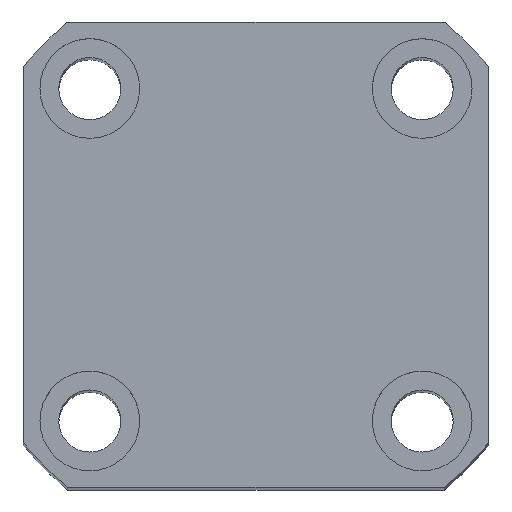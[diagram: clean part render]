
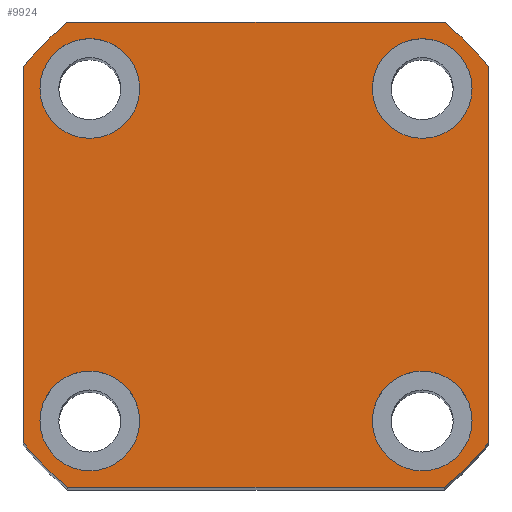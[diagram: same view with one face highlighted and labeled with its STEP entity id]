
A CAD part, top view. The second image highlights one B-rep face of the part: STEP entity #9924.
In plain terms, the highlighted planar face has unit normal (0, 0, 1).
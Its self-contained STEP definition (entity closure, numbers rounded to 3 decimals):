
#84 = CIRCLE ( 'NONE', #10214, 4.5 ) ;
#116 = EDGE_CURVE ( 'NONE', #1293, #1681, #10121, .T. ) ;
#162 = VERTEX_POINT ( 'NONE', #4908 ) ;
#220 = DIRECTION ( 'NONE',  ( 1., 0., 0. ) ) ;
#311 = AXIS2_PLACEMENT_3D ( 'NONE', #9185, #4201, #9992 ) ;
#366 = DIRECTION ( 'NONE',  ( 0., 0., 1. ) ) ;
#473 = VERTEX_POINT ( 'NONE', #594 ) ;
#479 = EDGE_CURVE ( 'NONE', #6221, #162, #4153, .T. ) ;
#530 = ORIENTED_EDGE ( 'NONE', *, *, #9271, .T. ) ;
#569 = CARTESIAN_POINT ( 'NONE',  ( 15., 15., 133. ) ) ;
#594 = CARTESIAN_POINT ( 'NONE',  ( -19.5, 15.002, 133. ) ) ;
#651 = FACE_BOUND ( 'NONE', #5112, .T. ) ;
#656 = AXIS2_PLACEMENT_3D ( 'NONE', #7766, #2812, #8602 ) ;
#668 = DIRECTION ( 'NONE',  ( 1., 0., 0. ) ) ;
#737 = CARTESIAN_POINT ( 'NONE',  ( -16.971, 21., 133. ) ) ;
#748 = CARTESIAN_POINT ( 'NONE',  ( 0., 0., 133. ) ) ;
#811 = DIRECTION ( 'NONE',  ( 0., 0., 1. ) ) ;
#836 = DIRECTION ( 'NONE',  ( 1., 0., 0. ) ) ;
#952 = CIRCLE ( 'NONE', #7376, 4.5 ) ;
#990 = VERTEX_POINT ( 'NONE', #2582 ) ;
#994 = CARTESIAN_POINT ( 'NONE',  ( -21., 21., 133. ) ) ;
#1282 = VECTOR ( 'NONE', #7005, 1000. ) ;
#1293 = VERTEX_POINT ( 'NONE', #5884 ) ;
#1294 = CARTESIAN_POINT ( 'NONE',  ( 0., 0., 133. ) ) ;
#1351 = DIRECTION ( 'NONE',  ( 1., 0., 0. ) ) ;
#1399 = CIRCLE ( 'NONE', #4107, 4.5 ) ;
#1491 = AXIS2_PLACEMENT_3D ( 'NONE', #569, #6329, #1351 ) ;
#1515 = CIRCLE ( 'NONE', #8488, 27. ) ;
#1681 = VERTEX_POINT ( 'NONE', #6994 ) ;
#1909 = DIRECTION ( 'NONE',  ( 0., 0., 1. ) ) ;
#2082 = AXIS2_PLACEMENT_3D ( 'NONE', #748, #811, #836 ) ;
#2111 = DIRECTION ( 'NONE',  ( 1., 0., 0. ) ) ;
#2185 = ORIENTED_EDGE ( 'NONE', *, *, #6860, .F. ) ;
#2440 = ORIENTED_EDGE ( 'NONE', *, *, #3163, .F. ) ;
#2582 = CARTESIAN_POINT ( 'NONE',  ( -16.971, -21., 133. ) ) ;
#2619 = DIRECTION ( 'NONE',  ( 0., 0., 1. ) ) ;
#2718 = CARTESIAN_POINT ( 'NONE',  ( 15., -14.998, 133. ) ) ;
#2765 = EDGE_CURVE ( 'NONE', #473, #4996, #5985, .T. ) ;
#2802 = CARTESIAN_POINT ( 'NONE',  ( 21., 16.971, 133. ) ) ;
#2812 = DIRECTION ( 'NONE',  ( 0., 0., 1. ) ) ;
#2921 = CARTESIAN_POINT ( 'NONE',  ( 19.5, -14.998, 133. ) ) ;
#3037 = LINE ( 'NONE', #994, #5243 ) ;
#3054 = CARTESIAN_POINT ( 'NONE',  ( -15., 15.002, 133. ) ) ;
#3163 = EDGE_CURVE ( 'NONE', #8508, #4341, #84, .T. ) ;
#3444 = VERTEX_POINT ( 'NONE', #9768 ) ;
#3517 = CARTESIAN_POINT ( 'NONE',  ( 15., 15., 133. ) ) ;
#3535 = DIRECTION ( 'NONE',  ( 1., 0., 0. ) ) ;
#3556 = VERTEX_POINT ( 'NONE', #9906 ) ;
#3723 = ORIENTED_EDGE ( 'NONE', *, *, #6023, .F. ) ;
#3844 = EDGE_CURVE ( 'NONE', #990, #6221, #9636, .T. ) ;
#3880 = DIRECTION ( 'NONE',  ( 1., 0., 0. ) ) ;
#3969 = EDGE_LOOP ( 'NONE', ( #530, #4053, #10563, #6664, #9460, #7098, #4853, #7843 ) ) ;
#4053 = ORIENTED_EDGE ( 'NONE', *, *, #9418, .T. ) ;
#4107 = AXIS2_PLACEMENT_3D ( 'NONE', #7582, #2619, #8410 ) ;
#4116 = VERTEX_POINT ( 'NONE', #6443 ) ;
#4153 = CIRCLE ( 'NONE', #2082, 27. ) ;
#4201 = DIRECTION ( 'NONE',  ( 0., 0., 1. ) ) ;
#4256 = CARTESIAN_POINT ( 'NONE',  ( -15., -14.998, 133. ) ) ;
#4280 = CIRCLE ( 'NONE', #1491, 4.5 ) ;
#4286 = DIRECTION ( 'NONE',  ( 0., 0., 1. ) ) ;
#4330 = DIRECTION ( 'NONE',  ( 1., 0., 0. ) ) ;
#4341 = VERTEX_POINT ( 'NONE', #7497 ) ;
#4345 = DIRECTION ( 'NONE',  ( 1., 0., 0. ) ) ;
#4468 = AXIS2_PLACEMENT_3D ( 'NONE', #4256, #4286, #4330 ) ;
#4648 = EDGE_LOOP ( 'NONE', ( #10335, #9304 ) ) ;
#4739 = VERTEX_POINT ( 'NONE', #7175 ) ;
#4853 = ORIENTED_EDGE ( 'NONE', *, *, #3844, .T. ) ;
#4908 = CARTESIAN_POINT ( 'NONE',  ( 21., -16.971, 133. ) ) ;
#4996 = VERTEX_POINT ( 'NONE', #5199 ) ;
#5102 = DIRECTION ( 'NONE',  ( 0., 0., 1. ) ) ;
#5112 = EDGE_LOOP ( 'NONE', ( #2440, #7584 ) ) ;
#5199 = CARTESIAN_POINT ( 'NONE',  ( -10.5, 15.002, 133. ) ) ;
#5233 = VECTOR ( 'NONE', #668, 1000. ) ;
#5243 = VECTOR ( 'NONE', #5945, 1000. ) ;
#5255 = CARTESIAN_POINT ( 'NONE',  ( 15., -14.998, 133. ) ) ;
#5279 = PLANE ( 'NONE',  #656 ) ;
#5531 = FACE_BOUND ( 'NONE', #4648, .T. ) ;
#5586 = EDGE_CURVE ( 'NONE', #4116, #3556, #4280, .T. ) ;
#5884 = CARTESIAN_POINT ( 'NONE',  ( -10.5, -14.998, 133. ) ) ;
#5904 = CARTESIAN_POINT ( 'NONE',  ( 21., 21., 133. ) ) ;
#5945 = DIRECTION ( 'NONE',  ( -1., 0., 0. ) ) ;
#5985 = CIRCLE ( 'NONE', #8202, 4.5 ) ;
#6023 = EDGE_CURVE ( 'NONE', #4996, #473, #952, .T. ) ;
#6113 = DIRECTION ( 'NONE',  ( 1., 0., 0. ) ) ;
#6196 = CARTESIAN_POINT ( 'NONE',  ( -21., 21., 133. ) ) ;
#6221 = VERTEX_POINT ( 'NONE', #9457 ) ;
#6329 = DIRECTION ( 'NONE',  ( 0., 0., 1. ) ) ;
#6443 = CARTESIAN_POINT ( 'NONE',  ( 10.5, 15., 133. ) ) ;
#6664 = ORIENTED_EDGE ( 'NONE', *, *, #8794, .T. ) ;
#6836 = VERTEX_POINT ( 'NONE', #8506 ) ;
#6860 = EDGE_CURVE ( 'NONE', #3556, #4116, #9548, .T. ) ;
#6864 = CARTESIAN_POINT ( 'NONE',  ( -15., 15.002, 133. ) ) ;
#6957 = FACE_OUTER_BOUND ( 'NONE', #3969, .T. ) ;
#6994 = CARTESIAN_POINT ( 'NONE',  ( -19.5, -14.998, 133. ) ) ;
#7005 = DIRECTION ( 'NONE',  ( 0., -1., 0. ) ) ;
#7071 = DIRECTION ( 'NONE',  ( 0., 0., 1. ) ) ;
#7098 = ORIENTED_EDGE ( 'NONE', *, *, #8023, .T. ) ;
#7175 = CARTESIAN_POINT ( 'NONE',  ( -21., 16.971, 133. ) ) ;
#7376 = AXIS2_PLACEMENT_3D ( 'NONE', #6864, #1909, #7683 ) ;
#7445 = VECTOR ( 'NONE', #9217, 1000. ) ;
#7463 = FACE_BOUND ( 'NONE', #9417, .T. ) ;
#7497 = CARTESIAN_POINT ( 'NONE',  ( 10.5, -14.998, 133. ) ) ;
#7554 = EDGE_CURVE ( 'NONE', #4341, #8508, #9410, .T. ) ;
#7582 = CARTESIAN_POINT ( 'NONE',  ( -15., -14.998, 133. ) ) ;
#7584 = ORIENTED_EDGE ( 'NONE', *, *, #7554, .F. ) ;
#7683 = DIRECTION ( 'NONE',  ( 1., 0., 0. ) ) ;
#7696 = EDGE_CURVE ( 'NONE', #4739, #3444, #7850, .T. ) ;
#7766 = CARTESIAN_POINT ( 'NONE',  ( 0., 0., 133. ) ) ;
#7843 = ORIENTED_EDGE ( 'NONE', *, *, #479, .T. ) ;
#7850 = LINE ( 'NONE', #6196, #1282 ) ;
#8023 = EDGE_CURVE ( 'NONE', #3444, #990, #8499, .T. ) ;
#8028 = CARTESIAN_POINT ( 'NONE',  ( -21., -21., 133. ) ) ;
#8202 = AXIS2_PLACEMENT_3D ( 'NONE', #3054, #8853, #3880 ) ;
#8211 = AXIS2_PLACEMENT_3D ( 'NONE', #1294, #7071, #2111 ) ;
#8410 = DIRECTION ( 'NONE',  ( 1., 0., 0. ) ) ;
#8488 = AXIS2_PLACEMENT_3D ( 'NONE', #10054, #5102, #220 ) ;
#8499 = CIRCLE ( 'NONE', #311, 27. ) ;
#8506 = CARTESIAN_POINT ( 'NONE',  ( 16.971, 21., 133. ) ) ;
#8508 = VERTEX_POINT ( 'NONE', #2921 ) ;
#8513 = DIRECTION ( 'NONE',  ( 0., 0., 1. ) ) ;
#8602 = DIRECTION ( 'NONE',  ( 1., 0., 0. ) ) ;
#8794 = EDGE_CURVE ( 'NONE', #9183, #4739, #1515, .T. ) ;
#8803 = EDGE_LOOP ( 'NONE', ( #2185, #10443 ) ) ;
#8853 = DIRECTION ( 'NONE',  ( 0., 0., 1. ) ) ;
#8892 = VERTEX_POINT ( 'NONE', #2802 ) ;
#9136 = FACE_BOUND ( 'NONE', #8803, .T. ) ;
#9168 = AXIS2_PLACEMENT_3D ( 'NONE', #3517, #9313, #4345 ) ;
#9183 = VERTEX_POINT ( 'NONE', #737 ) ;
#9185 = CARTESIAN_POINT ( 'NONE',  ( 0., 0., 133. ) ) ;
#9217 = DIRECTION ( 'NONE',  ( 0., 1., 0. ) ) ;
#9271 = EDGE_CURVE ( 'NONE', #162, #8892, #9644, .T. ) ;
#9281 = EDGE_CURVE ( 'NONE', #6836, #9183, #3037, .T. ) ;
#9304 = ORIENTED_EDGE ( 'NONE', *, *, #9761, .F. ) ;
#9313 = DIRECTION ( 'NONE',  ( 0., 0., 1. ) ) ;
#9381 = CIRCLE ( 'NONE', #8211, 27. ) ;
#9410 = CIRCLE ( 'NONE', #9529, 4.5 ) ;
#9417 = EDGE_LOOP ( 'NONE', ( #3723, #10513 ) ) ;
#9418 = EDGE_CURVE ( 'NONE', #8892, #6836, #9381, .T. ) ;
#9457 = CARTESIAN_POINT ( 'NONE',  ( 16.971, -21., 133. ) ) ;
#9460 = ORIENTED_EDGE ( 'NONE', *, *, #7696, .T. ) ;
#9529 = AXIS2_PLACEMENT_3D ( 'NONE', #2718, #8513, #3535 ) ;
#9548 = CIRCLE ( 'NONE', #9168, 4.5 ) ;
#9636 = LINE ( 'NONE', #8028, #5233 ) ;
#9644 = LINE ( 'NONE', #5904, #7445 ) ;
#9761 = EDGE_CURVE ( 'NONE', #1681, #1293, #1399, .T. ) ;
#9768 = CARTESIAN_POINT ( 'NONE',  ( -21., -16.971, 133. ) ) ;
#9906 = CARTESIAN_POINT ( 'NONE',  ( 19.5, 15., 133. ) ) ;
#9924 = ADVANCED_FACE ( 'NONE', ( #7463, #5531, #651, #9136, #6957 ), #5279, .T. ) ;
#9992 = DIRECTION ( 'NONE',  ( 1., 0., 0. ) ) ;
#10054 = CARTESIAN_POINT ( 'NONE',  ( 0., 0., 133. ) ) ;
#10121 = CIRCLE ( 'NONE', #4468, 4.5 ) ;
#10214 = AXIS2_PLACEMENT_3D ( 'NONE', #5255, #366, #6113 ) ;
#10335 = ORIENTED_EDGE ( 'NONE', *, *, #116, .F. ) ;
#10443 = ORIENTED_EDGE ( 'NONE', *, *, #5586, .F. ) ;
#10513 = ORIENTED_EDGE ( 'NONE', *, *, #2765, .F. ) ;
#10563 = ORIENTED_EDGE ( 'NONE', *, *, #9281, .T. ) ;
